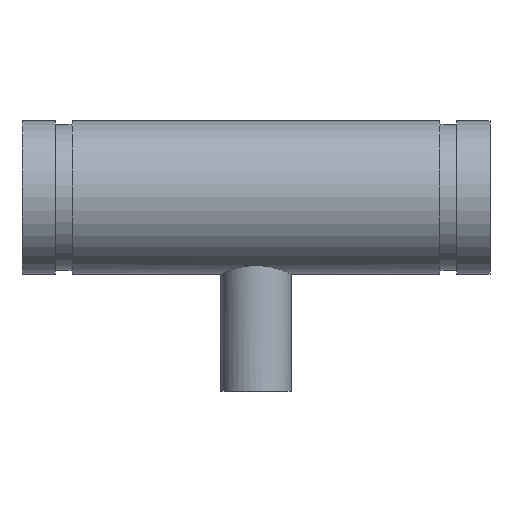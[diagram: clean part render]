
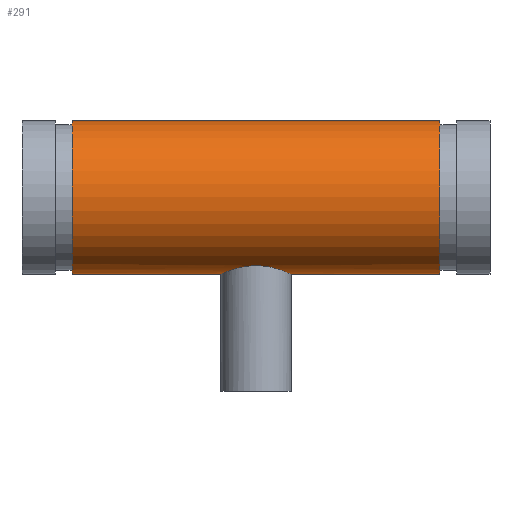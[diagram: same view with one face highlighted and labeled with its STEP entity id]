
A CAD part, top view. The second image highlights one B-rep face of the part: STEP entity #291.
In plain terms, the highlighted cylindrical face has radius 36.513 mm (diameter 73.025 mm), a full revolution.
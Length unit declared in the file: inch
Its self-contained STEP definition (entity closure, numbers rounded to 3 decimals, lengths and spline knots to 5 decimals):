
#45=B_SPLINE_CURVE_WITH_KNOTS('',3,(#511,#512,#513,#514,#515,#516,#517,
#518,#519,#520,#521,#522,#523,#524,#525,#526,#527,#528,#529,#530,#531,#532,
#533,#534,#535,#536,#537,#538,#539,#540,#541,#542,#543,#544,#545,#546,#547,
#548,#549,#550,#551,#552,#553,#554),.UNSPECIFIED.,.F.,.F.,(4,2,2,2,2,2,
2,2,2,2,2,2,2,2,2,2,2,2,2,2,2,4),(0.,0.32009,0.64018,
1.28035,1.59986,1.91936,2.23886,2.55837,
2.87787,3.19738,3.51688,3.83638,4.47656,
4.79665,5.11674,5.43682,5.75691,6.39709,
6.71659,7.0361,7.3556,7.6751),
 .UNSPECIFIED.);
#46=B_SPLINE_CURVE_WITH_KNOTS('',3,(#555,#556,#557,#558,#559,#560,#561,
#562,#563,#564,#565,#566,#567,#568,#569,#570),.UNSPECIFIED.,.F.,.F.,(4,
2,2,2,2,2,2,4),(7.6751,7.99461,8.31411,8.63362,
8.95312,9.5933,9.91338,10.23347),
 .UNSPECIFIED.);
#51=LINE('',#508,#59);
#59=VECTOR('',#410,1.4375);
#67=CYLINDRICAL_SURFACE('',#338,1.4375);
#77=FACE_BOUND('',#108,.T.);
#88=FACE_OUTER_BOUND('',#107,.T.);
#107=EDGE_LOOP('',(#221,#222,#223,#224));
#108=EDGE_LOOP('',(#225,#226));
#121=CIRCLE('',#321,1.4375);
#132=CIRCLE('',#337,1.4375);
#141=VERTEX_POINT('',#476);
#152=VERTEX_POINT('',#505);
#153=VERTEX_POINT('',#509);
#154=VERTEX_POINT('',#510);
#165=EDGE_CURVE('',#141,#141,#121,.T.);
#178=EDGE_CURVE('',#152,#152,#132,.T.);
#179=EDGE_CURVE('',#152,#141,#51,.T.);
#180=EDGE_CURVE('',#153,#154,#45,.T.);
#181=EDGE_CURVE('',#154,#153,#46,.T.);
#221=ORIENTED_EDGE('',*,*,#178,.T.);
#222=ORIENTED_EDGE('',*,*,#179,.T.);
#223=ORIENTED_EDGE('',*,*,#165,.T.);
#224=ORIENTED_EDGE('',*,*,#179,.F.);
#225=ORIENTED_EDGE('',*,*,#180,.F.);
#226=ORIENTED_EDGE('',*,*,#181,.F.);
#291=ADVANCED_FACE('',(#88,#77),#67,.T.);
#321=AXIS2_PLACEMENT_3D('',#477,#372,#373);
#337=AXIS2_PLACEMENT_3D('',#506,#406,#407);
#338=AXIS2_PLACEMENT_3D('',#507,#408,#409);
#372=DIRECTION('center_axis',(-1.,0.,0.));
#373=DIRECTION('ref_axis',(0.,-1.,0.));
#406=DIRECTION('center_axis',(1.,0.,0.));
#407=DIRECTION('ref_axis',(0.,-1.,0.));
#408=DIRECTION('center_axis',(-1.,0.,0.));
#409=DIRECTION('ref_axis',(0.,-1.,0.));
#410=DIRECTION('',(1.,0.,0.));
#476=CARTESIAN_POINT('',(3.442,1.4375,0.));
#477=CARTESIAN_POINT('Origin',(3.442,0.,0.));
#505=CARTESIAN_POINT('',(-3.442,1.4375,0.));
#506=CARTESIAN_POINT('Origin',(-3.442,0.,0.));
#507=CARTESIAN_POINT('Origin',(4.38,0.,0.));
#508=CARTESIAN_POINT('',(4.38,1.4375,0.));
#509=CARTESIAN_POINT('',(0.,-1.27832,-0.6575));
#510=CARTESIAN_POINT('',(-0.6575,-1.4375,0.));
#511=CARTESIAN_POINT('Ctrl Pts',(0.,-1.27832,
-0.6575));
#512=CARTESIAN_POINT('Ctrl Pts',(0.04201,-1.27832,-0.6575));
#513=CARTESIAN_POINT('Ctrl Pts',(0.0852,-1.28045,-0.65341));
#514=CARTESIAN_POINT('Ctrl Pts',(0.17068,-1.28896,-0.63645));
#515=CARTESIAN_POINT('Ctrl Pts',(0.21296,-1.29533,-0.62359));
#516=CARTESIAN_POINT('Ctrl Pts',(0.3341,-1.31888,-0.57301));
#517=CARTESIAN_POINT('Ctrl Pts',(0.40718,-1.3405,-0.52267));
#518=CARTESIAN_POINT('Ctrl Pts',(0.49374,-1.37009,-0.4361));
#519=CARTESIAN_POINT('Ctrl Pts',(0.52089,-1.3802,-0.40351));
#520=CARTESIAN_POINT('Ctrl Pts',(0.56895,-1.39904,-0.33233));
#521=CARTESIAN_POINT('Ctrl Pts',(0.58986,-1.40777,-0.29375));
#522=CARTESIAN_POINT('Ctrl Pts',(0.62361,-1.42224,-0.21291));
#523=CARTESIAN_POINT('Ctrl Pts',(0.63648,-1.42799,-0.17059));
#524=CARTESIAN_POINT('Ctrl Pts',(0.65342,-1.43562,-0.0851));
#525=CARTESIAN_POINT('Ctrl Pts',(0.6575,-1.4375,-0.04193));
#526=CARTESIAN_POINT('Ctrl Pts',(0.6575,-1.4375,0.04193));
#527=CARTESIAN_POINT('Ctrl Pts',(0.65342,-1.43562,0.0851));
#528=CARTESIAN_POINT('Ctrl Pts',(0.63648,-1.42799,0.17059));
#529=CARTESIAN_POINT('Ctrl Pts',(0.62361,-1.42224,0.21291));
#530=CARTESIAN_POINT('Ctrl Pts',(0.58986,-1.40777,0.29375));
#531=CARTESIAN_POINT('Ctrl Pts',(0.56895,-1.39904,0.33233));
#532=CARTESIAN_POINT('Ctrl Pts',(0.52089,-1.3802,0.40351));
#533=CARTESIAN_POINT('Ctrl Pts',(0.49374,-1.37009,0.4361));
#534=CARTESIAN_POINT('Ctrl Pts',(0.40718,-1.3405,0.52267));
#535=CARTESIAN_POINT('Ctrl Pts',(0.3341,-1.31888,0.57301));
#536=CARTESIAN_POINT('Ctrl Pts',(0.21296,-1.29533,0.62359));
#537=CARTESIAN_POINT('Ctrl Pts',(0.17068,-1.28896,0.63645));
#538=CARTESIAN_POINT('Ctrl Pts',(0.0852,-1.28045,0.65341));
#539=CARTESIAN_POINT('Ctrl Pts',(0.04201,-1.27832,0.6575));
#540=CARTESIAN_POINT('Ctrl Pts',(-0.04201,-1.27832,
0.6575));
#541=CARTESIAN_POINT('Ctrl Pts',(-0.0852,-1.28045,
0.65341));
#542=CARTESIAN_POINT('Ctrl Pts',(-0.17068,-1.28896,0.63645));
#543=CARTESIAN_POINT('Ctrl Pts',(-0.21296,-1.29533,0.62359));
#544=CARTESIAN_POINT('Ctrl Pts',(-0.3341,-1.31888,0.57301));
#545=CARTESIAN_POINT('Ctrl Pts',(-0.40718,-1.3405,0.52267));
#546=CARTESIAN_POINT('Ctrl Pts',(-0.49374,-1.37009,0.4361));
#547=CARTESIAN_POINT('Ctrl Pts',(-0.52089,-1.3802,0.40351));
#548=CARTESIAN_POINT('Ctrl Pts',(-0.56895,-1.39904,0.33233));
#549=CARTESIAN_POINT('Ctrl Pts',(-0.58986,-1.40777,0.29375));
#550=CARTESIAN_POINT('Ctrl Pts',(-0.62361,-1.42224,0.21291));
#551=CARTESIAN_POINT('Ctrl Pts',(-0.63648,-1.42799,0.17059));
#552=CARTESIAN_POINT('Ctrl Pts',(-0.65342,-1.43562,0.0851));
#553=CARTESIAN_POINT('Ctrl Pts',(-0.6575,-1.4375,0.04193));
#554=CARTESIAN_POINT('Ctrl Pts',(-0.6575,-1.4375,0.));
#555=CARTESIAN_POINT('Ctrl Pts',(-0.6575,-1.4375,0.));
#556=CARTESIAN_POINT('Ctrl Pts',(-0.6575,-1.4375,-0.04193));
#557=CARTESIAN_POINT('Ctrl Pts',(-0.65342,-1.43562,-0.0851));
#558=CARTESIAN_POINT('Ctrl Pts',(-0.63648,-1.42799,-0.17059));
#559=CARTESIAN_POINT('Ctrl Pts',(-0.62361,-1.42224,-0.21291));
#560=CARTESIAN_POINT('Ctrl Pts',(-0.58986,-1.40777,-0.29375));
#561=CARTESIAN_POINT('Ctrl Pts',(-0.56895,-1.39904,-0.33233));
#562=CARTESIAN_POINT('Ctrl Pts',(-0.52089,-1.3802,-0.40351));
#563=CARTESIAN_POINT('Ctrl Pts',(-0.49374,-1.37009,-0.4361));
#564=CARTESIAN_POINT('Ctrl Pts',(-0.40718,-1.3405,-0.52267));
#565=CARTESIAN_POINT('Ctrl Pts',(-0.3341,-1.31888,-0.57301));
#566=CARTESIAN_POINT('Ctrl Pts',(-0.21296,-1.29533,-0.62359));
#567=CARTESIAN_POINT('Ctrl Pts',(-0.17068,-1.28896,-0.63645));
#568=CARTESIAN_POINT('Ctrl Pts',(-0.0852,-1.28045,
-0.65341));
#569=CARTESIAN_POINT('Ctrl Pts',(-0.04201,-1.27832,
-0.6575));
#570=CARTESIAN_POINT('Ctrl Pts',(0.,-1.27832,
-0.6575));
